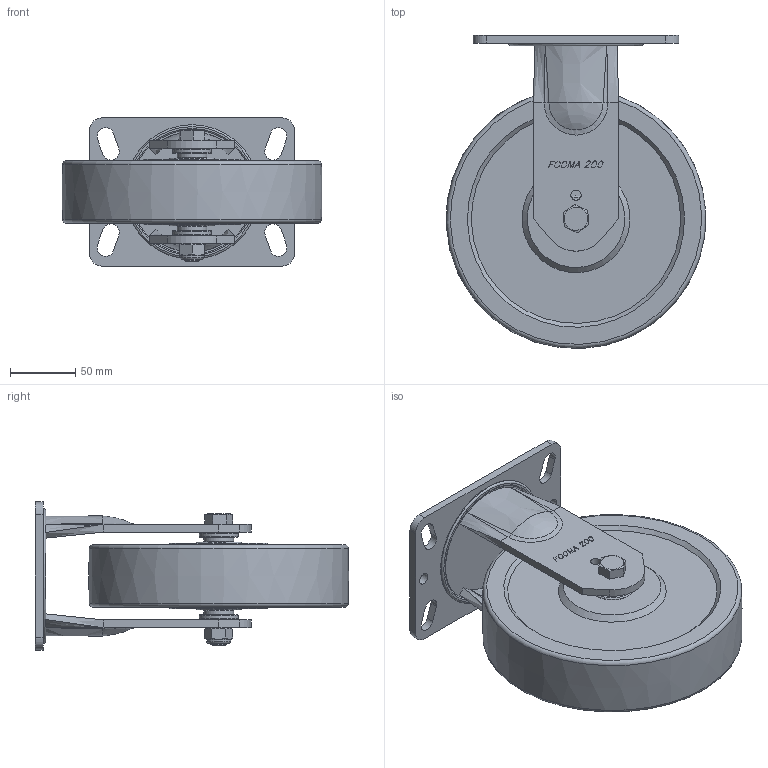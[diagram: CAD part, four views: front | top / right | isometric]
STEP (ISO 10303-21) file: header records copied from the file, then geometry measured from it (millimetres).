
FILE_DESCRIPTION(/* description */ (''),/* implementation_level */ '2;1');
FILE_NAME(/* name */ 'E:\★.DWG\PMH-SERIES\3D\홈페이지용\20180122-STEP\PMH-200-ARF-MCD.stp',/* time_stamp */ '2018-01-22T15:16:44+09:00',/* author */ ('장용하'),/* organization */ (''),/* preprocessor_version */ 'ST-DEVELOPER v16.13',/* originating_system */ 'Autodesk Inventor 2018',/* authorisation */ '');
FILE_SCHEMA (('AUTOMOTIVE_DESIGN { 1 0 10303 214 3 1 1 }'));
Length unit declared in the file: millimetre
Products named in the file (1): PMH-200-ARF-MCD_Shrinkwrap_1
Bounding box: 199.81 x 240.91 x 114 mm (x, y, z)
Volume: 1648310.7 mm3; surface area: 178842 mm2
Topology: 3 solids, 3 shells, 1016 faces, 2807 edges, 1855 vertices
Faces by surface type: plane 918, cylinder 36, bspline 33, cone 15, torus 14
Full cylindrical faces by diameter (mm): 8 x2, 9 x2, 12 x1, 18.5 x1, 21.667 x2, 21.867 x2, 22.9 x2, 28.133 x2, 28.333 x2, 30 x2, 35 x2, 102.5 x1, 103.5 x1
Entity records: 33861 total; most frequent: CARTESIAN_POINT 7258, ORIENTED_EDGE 5490, DIRECTION 4758, EDGE_CURVE 2745, LINE 2542, VECTOR 2542, VERTEX_POINT 1842, EDGE_LOOP 1145
